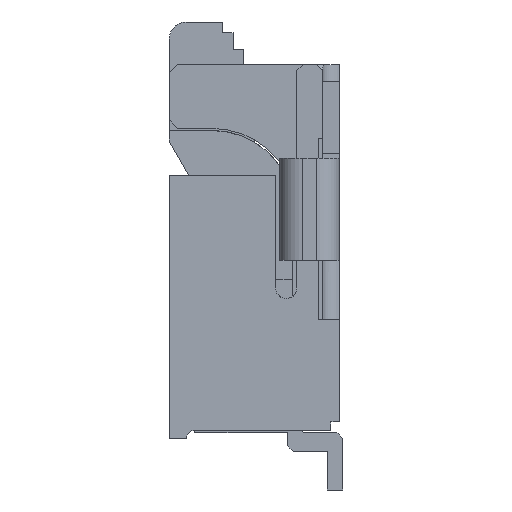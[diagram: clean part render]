
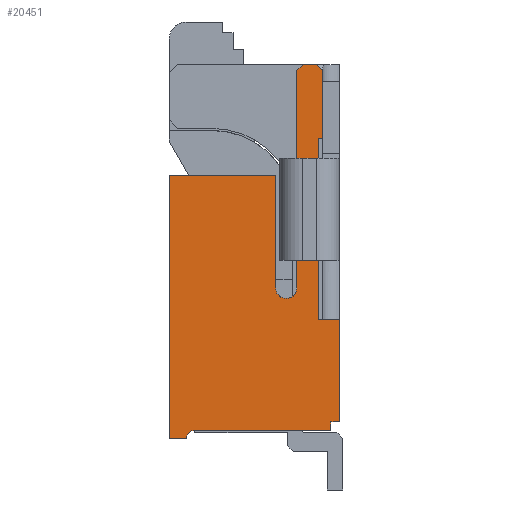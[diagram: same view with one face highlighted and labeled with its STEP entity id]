
A CAD part, left-side view. The second image highlights one B-rep face of the part: STEP entity #20451.
In plain terms, the highlighted planar face has unit normal (-1, 0, 0).
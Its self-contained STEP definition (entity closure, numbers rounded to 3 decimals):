
#38=DIRECTION('',(0.,1.,0.));
#39=VECTOR('',#38,0.15);
#40=CARTESIAN_POINT('',(-8.3,0.275,0.));
#41=LINE('',#40,#39);
#395=DIRECTION('',(0.,0.,1.));
#396=VECTOR('',#395,1.2);
#397=CARTESIAN_POINT('',(-8.3,0.,-4.2));
#398=LINE('',#397,#396);
#989=DIRECTION('',(0.,0.,-1.));
#990=VECTOR('',#989,1.025);
#991=CARTESIAN_POINT('',(-8.3,0.5,-0.075));
#992=LINE('',#991,#990);
#1064=DIRECTION('',(0.,0.,1.));
#1065=VECTOR('',#1064,2.13);
#1066=CARTESIAN_POINT('',(-8.3,0.25,-3.));
#1067=LINE('',#1066,#1065);
#1068=DIRECTION('',(0.,1.,0.));
#1069=VECTOR('',#1068,0.1);
#1070=CARTESIAN_POINT('',(-8.3,0.,-4.2));
#1071=LINE('',#1070,#1069);
#1072=DIRECTION('',(0.,0.,1.));
#1073=VECTOR('',#1072,0.1);
#1074=CARTESIAN_POINT('',(-8.3,0.1,-4.3));
#1075=LINE('',#1074,#1073);
#1076=DIRECTION('',(0.,-1.,0.));
#1077=VECTOR('',#1076,1.6);
#1078=CARTESIAN_POINT('',(-8.3,1.7,-4.3));
#1079=LINE('',#1078,#1077);
#1080=CARTESIAN_POINT('',(-8.3,1.7,-4.4));
#1081=DIRECTION('',(1.,0.,0.));
#1082=DIRECTION('',(0.,1.,0.));
#1083=AXIS2_PLACEMENT_3D('',#1080,#1081,#1082);
#1085=DIRECTION('',(0.,0.,1.));
#1086=VECTOR('',#1085,3.1);
#1087=CARTESIAN_POINT('',(-8.3,2.,-4.4));
#1088=LINE('',#1087,#1086);
#1089=DIRECTION('',(0.,-1.,0.));
#1090=VECTOR('',#1089,1.25);
#1091=CARTESIAN_POINT('',(-8.3,2.,-1.3));
#1092=LINE('',#1091,#1090);
#1093=DIRECTION('',(0.,0.,-1.));
#1094=VECTOR('',#1093,1.325);
#1095=CARTESIAN_POINT('',(-8.3,0.75,-1.3));
#1096=LINE('',#1095,#1094);
#1097=CARTESIAN_POINT('',(-8.3,0.625,-2.625));
#1098=DIRECTION('',(-1.,0.,0.));
#1099=DIRECTION('',(0.,1.,0.));
#1100=AXIS2_PLACEMENT_3D('',#1097,#1098,#1099);
#1102=DIRECTION('',(0.,0.,-1.));
#1103=VECTOR('',#1102,0.325);
#1104=CARTESIAN_POINT('',(-8.3,0.5,-2.3));
#1105=LINE('',#1104,#1103);
#1106=DIRECTION('',(0.,0.,-1.));
#1107=VECTOR('',#1106,1.2);
#1108=CARTESIAN_POINT('',(-8.3,0.5,-1.1));
#1109=LINE('',#1108,#1107);
#1110=DIRECTION('',(0.,-1.,0.));
#1111=VECTOR('',#1110,0.05);
#1112=CARTESIAN_POINT('',(-8.3,0.25,-0.87));
#1113=LINE('',#1112,#1111);
#1402=DIRECTION('',(0.,0.,1.));
#1403=VECTOR('',#1402,0.795);
#1404=CARTESIAN_POINT('',(-8.3,0.2,-0.87));
#1405=LINE('',#1404,#1403);
#1422=DIRECTION('',(0.,1.,0.));
#1423=VECTOR('',#1422,0.25);
#1424=CARTESIAN_POINT('',(-8.3,0.,-3.));
#1425=LINE('',#1424,#1423);
#13784=DIRECTION('',(0.,1.,0.));
#13785=VECTOR('',#13784,0.2);
#13786=CARTESIAN_POINT('',(-8.3,1.8,-4.4));
#13787=LINE('',#13786,#13785);
#14552=DIRECTION('',(0.,-0.707,-0.707));
#14553=VECTOR('',#14552,0.106);
#14554=CARTESIAN_POINT('',(-8.3,0.275,0.));
#14555=LINE('',#14554,#14553);
#14622=DIRECTION('',(0.,0.707,-0.707));
#14623=VECTOR('',#14622,0.106);
#14624=CARTESIAN_POINT('',(-8.3,0.425,0.));
#14625=LINE('',#14624,#14623);
#14654=CARTESIAN_POINT('',(-8.3,2.,-4.4));
#14655=VERTEX_POINT('',#14654);
#14662=CARTESIAN_POINT('',(-8.3,0.,-3.));
#14664=VERTEX_POINT('',#14662);
#14741=CARTESIAN_POINT('',(-8.3,0.275,0.));
#14742=VERTEX_POINT('',#14741);
#14743=CARTESIAN_POINT('',(-8.3,0.2,-0.075));
#14744=VERTEX_POINT('',#14743);
#14827=CARTESIAN_POINT('',(-8.3,0.5,-2.3));
#14828=VERTEX_POINT('',#14827);
#14869=CARTESIAN_POINT('',(-8.3,0.5,-1.1));
#14870=VERTEX_POINT('',#14869);
#14927=CARTESIAN_POINT('',(-8.3,2.,-1.3));
#14928=CARTESIAN_POINT('',(-8.3,0.75,-1.3));
#14929=VERTEX_POINT('',#14927);
#14930=VERTEX_POINT('',#14928);
#14931=CARTESIAN_POINT('',(-8.3,0.75,-2.625));
#14932=VERTEX_POINT('',#14931);
#14933=CARTESIAN_POINT('',(-8.3,0.5,-2.625));
#14934=VERTEX_POINT('',#14933);
#14935=CARTESIAN_POINT('',(-8.3,1.8,-4.4));
#14936=CARTESIAN_POINT('',(-8.3,1.7,-4.3));
#14937=VERTEX_POINT('',#14935);
#14938=VERTEX_POINT('',#14936);
#14939=CARTESIAN_POINT('',(-8.3,0.1,-4.3));
#14940=VERTEX_POINT('',#14939);
#14941=CARTESIAN_POINT('',(-8.3,0.1,-4.2));
#14942=VERTEX_POINT('',#14941);
#14943=CARTESIAN_POINT('',(-8.3,0.,-4.2));
#14944=VERTEX_POINT('',#14943);
#14955=CARTESIAN_POINT('',(-8.3,0.425,0.));
#14957=VERTEX_POINT('',#14955);
#14959=CARTESIAN_POINT('',(-8.3,0.5,-0.075));
#14961=VERTEX_POINT('',#14959);
#18817=CARTESIAN_POINT('',(-8.3,0.25,-3.));
#18818=CARTESIAN_POINT('',(-8.3,0.25,-0.87));
#18819=VERTEX_POINT('',#18817);
#18820=VERTEX_POINT('',#18818);
#18821=CARTESIAN_POINT('',(-8.3,0.2,-0.87));
#18822=VERTEX_POINT('',#18821);
#20410=CARTESIAN_POINT('',(-8.3,2.,0.));
#20411=DIRECTION('',(-1.,0.,0.));
#20412=DIRECTION('',(0.,-1.,0.));
#20413=AXIS2_PLACEMENT_3D('',#20410,#20411,#20412);
#20414=PLANE('',#20413);
#20416=ORIENTED_EDGE('',*,*,#20415,.F.);
#20418=ORIENTED_EDGE('',*,*,#20417,.F.);
#20419=ORIENTED_EDGE('',*,*,#19600,.F.);
#20421=ORIENTED_EDGE('',*,*,#20420,.T.);
#20423=ORIENTED_EDGE('',*,*,#20422,.F.);
#20425=ORIENTED_EDGE('',*,*,#20424,.F.);
#20427=ORIENTED_EDGE('',*,*,#20426,.F.);
#20429=ORIENTED_EDGE('',*,*,#20428,.T.);
#20430=ORIENTED_EDGE('',*,*,#20244,.T.);
#20432=ORIENTED_EDGE('',*,*,#20431,.T.);
#20434=ORIENTED_EDGE('',*,*,#20433,.T.);
#20435=ORIENTED_EDGE('',*,*,#20403,.T.);
#20436=ORIENTED_EDGE('',*,*,#20306,.F.);
#20438=ORIENTED_EDGE('',*,*,#20437,.F.);
#20439=ORIENTED_EDGE('',*,*,#20327,.F.);
#20441=ORIENTED_EDGE('',*,*,#20440,.F.);
#20442=ORIENTED_EDGE('',*,*,#19302,.F.);
#20444=ORIENTED_EDGE('',*,*,#20443,.T.);
#20446=ORIENTED_EDGE('',*,*,#20445,.F.);
#20448=ORIENTED_EDGE('',*,*,#20447,.F.);
#20449=EDGE_LOOP('',(#20416,#20418,#20419,#20421,#20423,#20425,#20427,#20429,
#20430,#20432,#20434,#20435,#20436,#20438,#20439,#20441,#20442,#20444,#20446,
#20448));
#20450=FACE_OUTER_BOUND('',#20449,.F.);
#20451=ADVANCED_FACE('',(#20450),#20414,.T.);
#1084=CIRCLE('',#1083,0.1);
#1101=CIRCLE('',#1100,0.125);
#19302=EDGE_CURVE('',#14742,#14957,#41,.T.);
#19600=EDGE_CURVE('',#14944,#14664,#398,.T.);
#20244=EDGE_CURVE('',#14655,#14929,#1088,.T.);
#20306=EDGE_CURVE('',#14828,#14934,#1105,.T.);
#20327=EDGE_CURVE('',#14961,#14870,#992,.T.);
#20403=EDGE_CURVE('',#14932,#14934,#1101,.T.);
#20415=EDGE_CURVE('',#18819,#18820,#1067,.T.);
#20417=EDGE_CURVE('',#14664,#18819,#1425,.T.);
#20420=EDGE_CURVE('',#14944,#14942,#1071,.T.);
#20422=EDGE_CURVE('',#14940,#14942,#1075,.T.);
#20424=EDGE_CURVE('',#14938,#14940,#1079,.T.);
#20426=EDGE_CURVE('',#14937,#14938,#1084,.T.);
#20428=EDGE_CURVE('',#14937,#14655,#13787,.T.);
#20431=EDGE_CURVE('',#14929,#14930,#1092,.T.);
#20433=EDGE_CURVE('',#14930,#14932,#1096,.T.);
#20437=EDGE_CURVE('',#14870,#14828,#1109,.T.);
#20440=EDGE_CURVE('',#14957,#14961,#14625,.T.);
#20443=EDGE_CURVE('',#14742,#14744,#14555,.T.);
#20445=EDGE_CURVE('',#18822,#14744,#1405,.T.);
#20447=EDGE_CURVE('',#18820,#18822,#1113,.T.);
